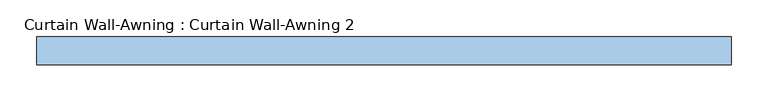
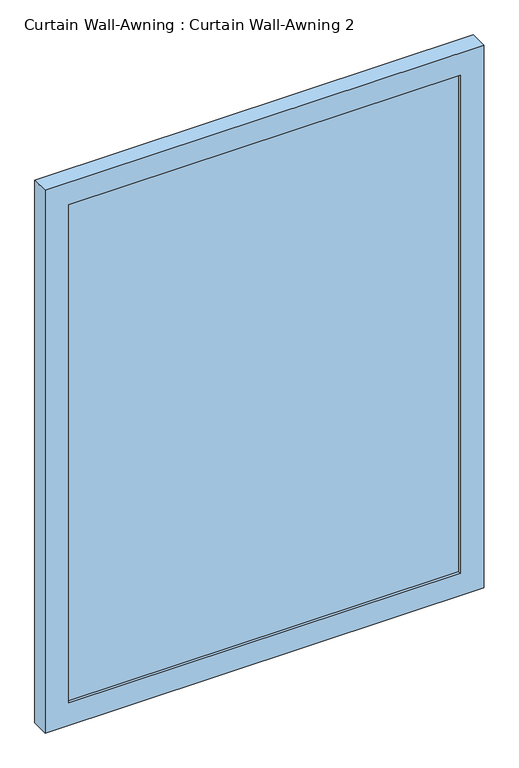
"""IFC4 building model written with IfcOpenShell, lengths in millimetres: window geometry, Curtain Wall-Awning : Curtain Wall-Awning 2."""

from ifc_helpers import new_model, si_unit, frame, origin, place, context, project, spatial, polyline, outline, extrude, source, transform, mapped, element, save


def curtain_wall_awning_curtain_wall_awning_2_373db1d4(model_context):
    return source(origin(), model_context, "Body", "SweptSolid", [
        extrude(outline(polyline([(422.275, 19.05), (422.275, 6.35), (-422.275, 6.35), (-422.275, 19.05), (422.275, 19.05)])), frame((0.0, 0.0, 50.8), z_axis=(0.0, 0.0, 1.0), x_axis=(1.0, 0.0, 0.0)), (0.0, 0.0, 1.0), 1134.635445),
        extrude(outline(polyline([(1236.235445, -473.075), (0.0, -473.075), (0.0, 473.075), (1236.235445, 473.075), (1236.235445, -473.075)]), holes=[polyline([(1185.435445, -422.275), (1185.435445, 422.275), (50.8, 422.275), (50.8, -422.275), (1185.435445, -422.275)])]), frame((0.0, 0.0, 0.0), z_axis=(0.0, 1.0, 0.0), x_axis=(0.0, 0.0, 1.0)), (0.0, 0.0, 1.0), 38.1),
    ])


if __name__ == "__main__":
    model = new_model("IFC4")
    model_context = context("Model", 3, world=origin())
    ifc_project = project(units=[si_unit("LENGTHUNIT", "METRE", prefix="MILLI")], contexts=[model_context])
    site = spatial("IfcSite", under=ifc_project)
    building = spatial("IfcBuilding", under=site)
    placement = place(None, origin())
    curtain_wall_awning_curtain_wall_awning_2_shape = curtain_wall_awning_curtain_wall_awning_2_373db1d4(model_context)
    element("IfcWindow", 1, ObjectType="Curtain Wall-Awning : Curtain Wall-Awning 2", at=placement, inside=building, context=model_context, shape_type="MappedRepresentation", body=[
        mapped(curtain_wall_awning_curtain_wall_awning_2_shape, transform((0.0, 0.0, 0.0), x_axis=(1.0, 0.0, 0.0), y_axis=(0.0, 1.0, 0.0), z_axis=(0.0, 0.0, 1.0))),
    ])
    save(model, "model.ifc")
